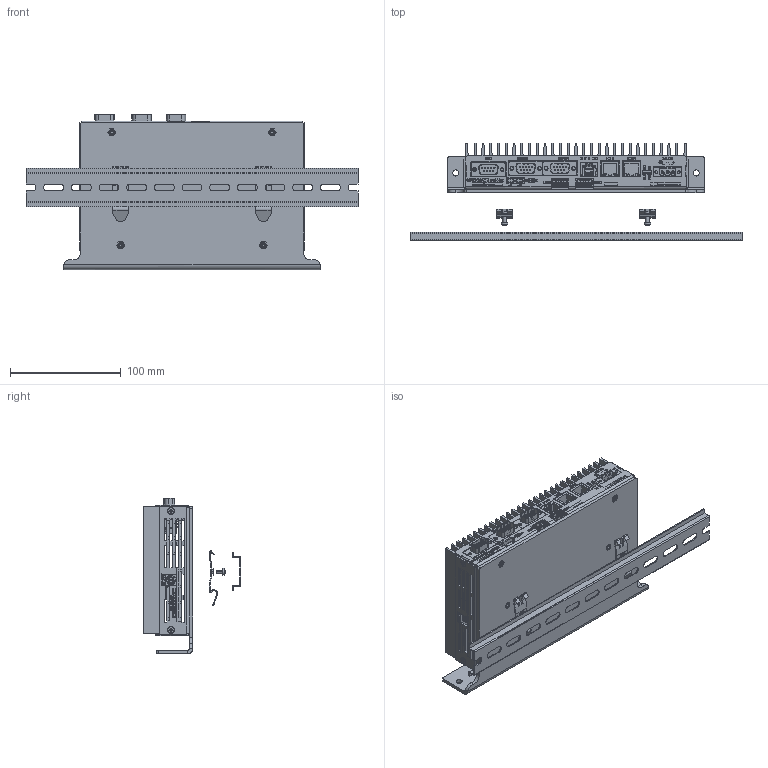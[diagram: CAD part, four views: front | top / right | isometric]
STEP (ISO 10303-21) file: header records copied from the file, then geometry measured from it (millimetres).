
FILE_DESCRIPTION((''),'2;1');
FILE_NAME('BOXE_ASSY','2019-02-22T',('giuseppe.bertuccio'),('GEFRAN S.p.A via Carducci,24 21040 Gerenzano (VA)'),'PRO/ENGINEER BY PARAMETRIC TECHNOLOGY CORPORATION, 2011080','PRO/ENGINEER BY PARAMETRIC TECHNOLOGY CORPORATION, 2011080','');
FILE_SCHEMA(('CONFIG_CONTROL_DESIGN'));
Products named in the file (30): CARTER_EBOX6_MOD_15MM; DIS-00484-0X_CARTER_EBOX6_MOD; SLS005684__SUPPORTO_; SLS005685__OSSIDAZIONE_NERA_; AQ018536__DADO_PTSO-S-M3-3_; VES001926; DIN965A_M3X5_SPECIALE_FORNITORE; MSTB_2_5-3-GF-5_08; PRESA_RETE_SMT_PULSE; C-292303-9-D-3D; A54187_2; A5418702; A54190; 154190; LED_ROSSO; LED_GIALLO; LED_VERDE; ROTARY; 5035000991; 56469_3X2_MMT103-01-T-DH-P; CONN_DB9_AMP; C-5406721-2-E-3D; BBOARD_BOXE_MOD_15MM; DISS_OS472_AAVID_VERS9_MOD; DIN965A_M3X15; 8S8C16; 8S8L01; 8S8E67; EPZ4462_3; BOXE_ASSY
Assembly tree (52 placements, depth 5):
  BOXE_ASSY
    DIS-00484-0X_CARTER_EBOX6_MOD
      CARTER_EBOX6_MOD_15MM
    VES001926
      SLS005685__OSSIDAZIONE_NERA_
        SLS005684__SUPPORTO_
      AQ018536__DADO_PTSO-S-M3-3_  x6
    DIN965A_M3X5_SPECIALE_FORNITORE  x8
    BBOARD_BOXE_MOD_15MM
      MSTB_2_5-3-GF-5_08
      PRESA_RETE_SMT_PULSE  x2
      C-292303-9-D-3D  x2
      154190  x2
        A54190
          A54187_2
          A5418702
      LED_ROSSO  x2
      LED_GIALLO
      LED_VERDE
      ROTARY
      5035000991
      56469_3X2_MMT103-01-T-DH-P  x2
      CONN_DB9_AMP
      C-5406721-2-E-3D
    DISS_OS472_AAVID_VERS9_MOD
    DIN965A_M3X15  x4
    8S8C16  x2
    8S8L01  x2
    8S8E67  x2
    EPZ4462_3
Bounding box: 300 x 87.9 x 140.35 mm (x, y, z)
Volume: 347793.1 mm3; surface area: 316030.6 mm2
Topology: 72 solids, 88 shells, 8469 faces, 22872 edges, 14955 vertices
Faces by surface type: plane 6924, cylinder 1214, bspline 158, cone 115, sphere 26, extrusion 16, torus 16
Entity records: 222015 total; most frequent: CARTESIAN_POINT 42374, ORIENTED_EDGE 38252, DIRECTION 34725, EDGE_CURVE 19134, VECTOR 17097, LINE 17089, VERTEX_POINT 12568, AXIS2_PLACEMENT_3D 8814
